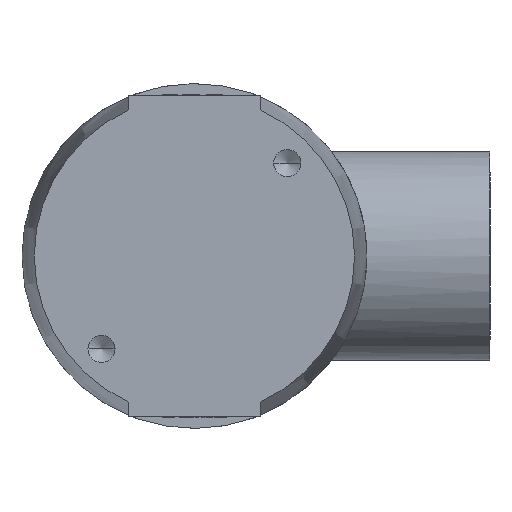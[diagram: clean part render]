
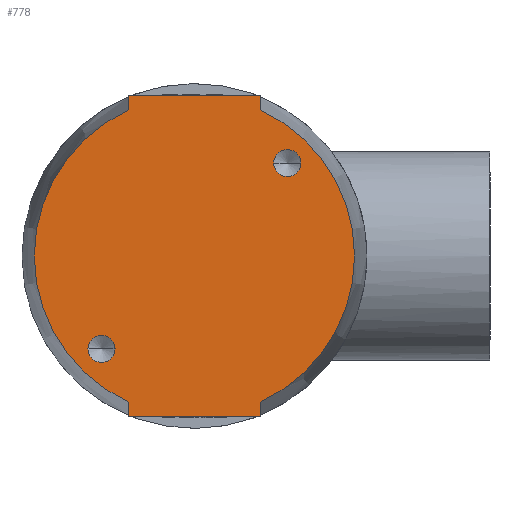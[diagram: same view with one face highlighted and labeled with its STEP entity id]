
A CAD part, front view. The second image highlights one B-rep face of the part: STEP entity #778.
In plain terms, the highlighted planar face has unit normal (0, -1, 0).
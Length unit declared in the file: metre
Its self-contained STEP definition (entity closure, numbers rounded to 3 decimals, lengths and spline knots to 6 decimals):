
#62 = CIRCLE ( 'NONE', #5409, 0.00165 ) ;
#64 = EDGE_CURVE ( 'NONE', #2887, #2863, #3145, .T. ) ;
#260 = VECTOR ( 'NONE', #9074, 1. ) ;
#352 = EDGE_CURVE ( 'NONE', #5014, #6234, #413, .T. ) ;
#413 = LINE ( 'NONE', #9063, #260 ) ;
#723 = DIRECTION ( 'NONE',  ( 0., 0., -1. ) ) ;
#767 = EDGE_CURVE ( 'NONE', #2863, #2887, #3860, .T. ) ;
#778 = ADVANCED_FACE ( 'NONE', ( #9019, #11048, #10782 ), #11985, .F. ) ;
#940 = CARTESIAN_POINT ( 'NONE',  ( 0.008, 0., 0.0195 ) ) ;
#957 = VECTOR ( 'NONE', #10697, 1. ) ;
#963 = EDGE_CURVE ( 'NONE', #5014, #4319, #2323, .T. ) ;
#1259 = LINE ( 'NONE', #10544, #957 ) ;
#1386 = CARTESIAN_POINT ( 'NONE',  ( 0.008, 0., -0.017784 ) ) ;
#1641 = VERTEX_POINT ( 'NONE', #2158 ) ;
#1643 = DIRECTION ( 'NONE',  ( 0., 0., -1. ) ) ;
#1659 = CARTESIAN_POINT ( 'NONE',  ( -0.008, 0., 0.018637 ) ) ;
#1788 = VERTEX_POINT ( 'NONE', #1386 ) ;
#2119 = CARTESIAN_POINT ( 'NONE',  ( -0.008, 0., 0.0195 ) ) ;
#2158 = CARTESIAN_POINT ( 'NONE',  ( -0.008, 0., -0.017784 ) ) ;
#2250 = DIRECTION ( 'NONE',  ( 0., 1., 0. ) ) ;
#2278 = CARTESIAN_POINT ( 'NONE',  ( 0., 0., 0. ) ) ;
#2282 = EDGE_LOOP ( 'NONE', ( #6548, #10646 ) ) ;
#2323 = LINE ( 'NONE', #1659, #6933 ) ;
#2346 = DIRECTION ( 'NONE',  ( 0., 0., 1. ) ) ;
#2422 = ORIENTED_EDGE ( 'NONE', *, *, #64, .F. ) ;
#2427 = VERTEX_POINT ( 'NONE', #5433 ) ;
#2444 = ORIENTED_EDGE ( 'NONE', *, *, #6827, .F. ) ;
#2502 = LINE ( 'NONE', #8299, #5010 ) ;
#2577 = EDGE_LOOP ( 'NONE', ( #2422, #10028 ) ) ;
#2741 = EDGE_CURVE ( 'NONE', #7307, #7296, #62, .T. ) ;
#2839 = CIRCLE ( 'NONE', #12023, 0.019501 ) ;
#2863 = VERTEX_POINT ( 'NONE', #10806 ) ;
#2887 = VERTEX_POINT ( 'NONE', #11251 ) ;
#3145 = CIRCLE ( 'NONE', #6959, 0.00165 ) ;
#3857 = VERTEX_POINT ( 'NONE', #6051 ) ;
#3860 = CIRCLE ( 'NONE', #4149, 0.00165 ) ;
#4077 = ORIENTED_EDGE ( 'NONE', *, *, #10358, .T. ) ;
#4086 = CARTESIAN_POINT ( 'NONE',  ( 0., 0., 0. ) ) ;
#4149 = AXIS2_PLACEMENT_3D ( 'NONE', #11950, #11961, #11968 ) ;
#4278 = CARTESIAN_POINT ( 'NONE',  ( 0.008, 0., 0.018637 ) ) ;
#4319 = VERTEX_POINT ( 'NONE', #4658 ) ;
#4512 = ORIENTED_EDGE ( 'NONE', *, *, #963, .T. ) ;
#4658 = CARTESIAN_POINT ( 'NONE',  ( -0.008, 0., 0.017784 ) ) ;
#4748 = VECTOR ( 'NONE', #7977, 1. ) ;
#4975 = DIRECTION ( 'NONE',  ( 0., 0., 1. ) ) ;
#4992 = AXIS2_PLACEMENT_3D ( 'NONE', #8988, #9009, #9028 ) ;
#5010 = VECTOR ( 'NONE', #723, 1. ) ;
#5014 = VERTEX_POINT ( 'NONE', #2119 ) ;
#5020 = EDGE_CURVE ( 'NONE', #1641, #4319, #9543, .T. ) ;
#5409 = AXIS2_PLACEMENT_3D ( 'NONE', #9195, #9212, #9224 ) ;
#5433 = CARTESIAN_POINT ( 'NONE',  ( 0.008, 0., -0.0195 ) ) ;
#5548 = CARTESIAN_POINT ( 'NONE',  ( 0.012964, 0., 0.011314 ) ) ;
#5671 = VERTEX_POINT ( 'NONE', #9383 ) ;
#5744 = VECTOR ( 'NONE', #6589, 1. ) ;
#6051 = CARTESIAN_POINT ( 'NONE',  ( -0.008, 0., -0.0195 ) ) ;
#6234 = VERTEX_POINT ( 'NONE', #940 ) ;
#6323 = LINE ( 'NONE', #4278, #5744 ) ;
#6470 = CARTESIAN_POINT ( 'NONE',  ( 0.009664, 0., 0.011314 ) ) ;
#6548 = ORIENTED_EDGE ( 'NONE', *, *, #2741, .F. ) ;
#6553 = AXIS2_PLACEMENT_3D ( 'NONE', #11898, #12000, #12008 ) ;
#6589 = DIRECTION ( 'NONE',  ( 0., 0., 1. ) ) ;
#6729 = EDGE_CURVE ( 'NONE', #7296, #7307, #11627, .T. ) ;
#6827 = EDGE_CURVE ( 'NONE', #2427, #3857, #1259, .T. ) ;
#6933 = VECTOR ( 'NONE', #1643, 1. ) ;
#6959 = AXIS2_PLACEMENT_3D ( 'NONE', #7279, #7292, #7303 ) ;
#7009 = CARTESIAN_POINT ( 'NONE',  ( 0.008, 0., -0.018637 ) ) ;
#7279 = CARTESIAN_POINT ( 'NONE',  ( -0.011314, 0., -0.011314 ) ) ;
#7292 = DIRECTION ( 'NONE',  ( 0., -1., 0. ) ) ;
#7296 = VERTEX_POINT ( 'NONE', #6470 ) ;
#7303 = DIRECTION ( 'NONE',  ( 1., 0., 0. ) ) ;
#7307 = VERTEX_POINT ( 'NONE', #5548 ) ;
#7504 = EDGE_CURVE ( 'NONE', #5671, #6234, #6323, .T. ) ;
#7939 = ORIENTED_EDGE ( 'NONE', *, *, #9655, .T. ) ;
#7977 = DIRECTION ( 'NONE',  ( 0., 0., 1. ) ) ;
#8074 = EDGE_CURVE ( 'NONE', #5671, #1788, #2839, .T. ) ;
#8299 = CARTESIAN_POINT ( 'NONE',  ( -0.008, 0., -0.018637 ) ) ;
#8553 = ORIENTED_EDGE ( 'NONE', *, *, #352, .F. ) ;
#8799 = EDGE_LOOP ( 'NONE', ( #4512, #10518, #4077, #2444, #7939, #9966, #9473, #8553 ) ) ;
#8988 = CARTESIAN_POINT ( 'NONE',  ( 0.011314, 0., 0.011314 ) ) ;
#9009 = DIRECTION ( 'NONE',  ( 0., -1., 0. ) ) ;
#9019 = FACE_BOUND ( 'NONE', #2282, .T. ) ;
#9028 = DIRECTION ( 'NONE',  ( 1., 0., 0. ) ) ;
#9063 = CARTESIAN_POINT ( 'NONE',  ( 0., 0., 0.0195 ) ) ;
#9074 = DIRECTION ( 'NONE',  ( 1., 0., 0. ) ) ;
#9195 = CARTESIAN_POINT ( 'NONE',  ( 0.011314, 0., 0.011314 ) ) ;
#9212 = DIRECTION ( 'NONE',  ( 0., -1., 0. ) ) ;
#9224 = DIRECTION ( 'NONE',  ( 1., 0., 0. ) ) ;
#9383 = CARTESIAN_POINT ( 'NONE',  ( 0.008, 0., 0.017784 ) ) ;
#9473 = ORIENTED_EDGE ( 'NONE', *, *, #7504, .T. ) ;
#9543 = CIRCLE ( 'NONE', #10374, 0.019501 ) ;
#9655 = EDGE_CURVE ( 'NONE', #2427, #1788, #11861, .T. ) ;
#9966 = ORIENTED_EDGE ( 'NONE', *, *, #8074, .F. ) ;
#10028 = ORIENTED_EDGE ( 'NONE', *, *, #767, .F. ) ;
#10358 = EDGE_CURVE ( 'NONE', #1641, #3857, #2502, .T. ) ;
#10374 = AXIS2_PLACEMENT_3D ( 'NONE', #2278, #2250, #2346 ) ;
#10409 = DIRECTION ( 'NONE',  ( 0., 1., 0. ) ) ;
#10518 = ORIENTED_EDGE ( 'NONE', *, *, #5020, .F. ) ;
#10544 = CARTESIAN_POINT ( 'NONE',  ( 0., 0., -0.0195 ) ) ;
#10646 = ORIENTED_EDGE ( 'NONE', *, *, #6729, .F. ) ;
#10697 = DIRECTION ( 'NONE',  ( -1., 0., 0. ) ) ;
#10782 = FACE_OUTER_BOUND ( 'NONE', #8799, .T. ) ;
#10806 = CARTESIAN_POINT ( 'NONE',  ( -0.012964, 0., -0.011314 ) ) ;
#11048 = FACE_BOUND ( 'NONE', #2577, .T. ) ;
#11251 = CARTESIAN_POINT ( 'NONE',  ( -0.009664, 0., -0.011314 ) ) ;
#11627 = CIRCLE ( 'NONE', #4992, 0.00165 ) ;
#11861 = LINE ( 'NONE', #7009, #4748 ) ;
#11898 = CARTESIAN_POINT ( 'NONE',  ( -0.019735, 0., -0.0195 ) ) ;
#11950 = CARTESIAN_POINT ( 'NONE',  ( -0.011314, 0., -0.011314 ) ) ;
#11961 = DIRECTION ( 'NONE',  ( 0., -1., 0. ) ) ;
#11968 = DIRECTION ( 'NONE',  ( 1., 0., 0. ) ) ;
#11985 = PLANE ( 'NONE',  #6553 ) ;
#12000 = DIRECTION ( 'NONE',  ( 0., 1., 0. ) ) ;
#12008 = DIRECTION ( 'NONE',  ( 0., 0., 1. ) ) ;
#12023 = AXIS2_PLACEMENT_3D ( 'NONE', #4086, #10409, #4975 ) ;
